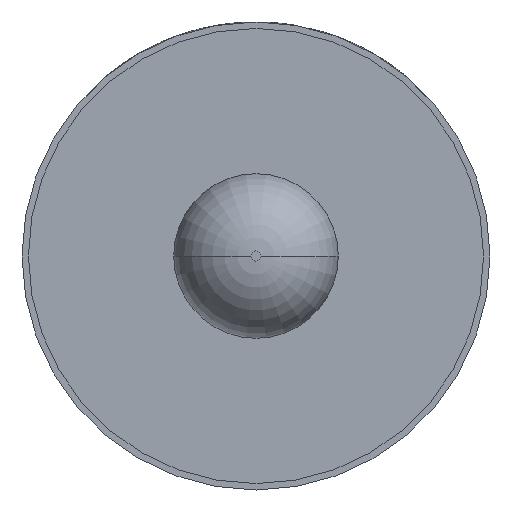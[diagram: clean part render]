
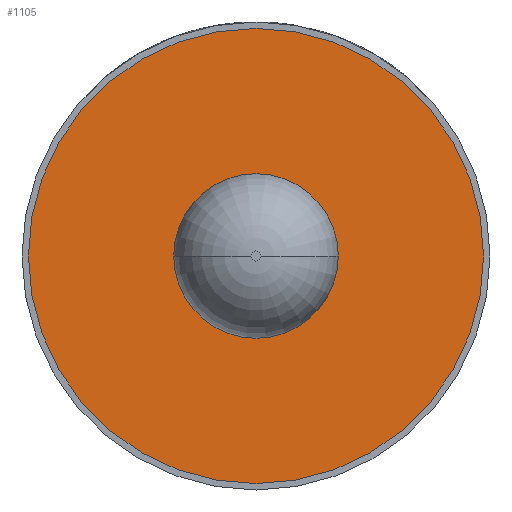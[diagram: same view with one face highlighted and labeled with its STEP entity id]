
A CAD part, left-side view. The second image highlights one B-rep face of the part: STEP entity #1105.
In plain terms, the highlighted planar face has unit normal (-1, 0, 0).
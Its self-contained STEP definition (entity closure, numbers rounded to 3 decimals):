
#137 = AXIS2_PLACEMENT_3D ( 'NONE', #2691, #3284, #444 ) ;
#213 = DIRECTION ( 'NONE',  ( 0., 0., -1. ) ) ;
#377 = AXIS2_PLACEMENT_3D ( 'NONE', #5184, #501, #2780 ) ;
#435 = VERTEX_POINT ( 'NONE', #3808 ) ;
#444 = DIRECTION ( 'NONE',  ( 0., 0., -1. ) ) ;
#501 = DIRECTION ( 'NONE',  ( 1., 0., 0. ) ) ;
#703 = ORIENTED_EDGE ( 'NONE', *, *, #2884, .T. ) ;
#771 = DIRECTION ( 'NONE',  ( 0., 0., -1. ) ) ;
#842 = AXIS2_PLACEMENT_3D ( 'NONE', #6443, #2985, #771 ) ;
#846 = VERTEX_POINT ( 'NONE', #4769 ) ;
#1058 = ORIENTED_EDGE ( 'NONE', *, *, #6444, .T. ) ;
#1105 = ADVANCED_FACE ( 'NONE', ( #5391, #1311 ), #7066, .F. ) ;
#1264 = VERTEX_POINT ( 'NONE', #3429 ) ;
#1311 = FACE_OUTER_BOUND ( 'NONE', #5989, .T. ) ;
#1372 = AXIS2_PLACEMENT_3D ( 'NONE', #6042, #5488, #4359 ) ;
#1480 = CARTESIAN_POINT ( 'NONE',  ( -98.7, 0., -3.2 ) ) ;
#1850 = VERTEX_POINT ( 'NONE', #1480 ) ;
#2691 = CARTESIAN_POINT ( 'NONE',  ( -98.7, 0., 0. ) ) ;
#2780 = DIRECTION ( 'NONE',  ( 0., 0., -1. ) ) ;
#2850 = EDGE_CURVE ( 'NONE', #846, #435, #5396, .T. ) ;
#2851 = ORIENTED_EDGE ( 'NONE', *, *, #4212, .F. ) ;
#2884 = EDGE_CURVE ( 'NONE', #1264, #1850, #7211, .T. ) ;
#2985 = DIRECTION ( 'NONE',  ( 1., 0., 0. ) ) ;
#3284 = DIRECTION ( 'NONE',  ( 1., 0., 0. ) ) ;
#3429 = CARTESIAN_POINT ( 'NONE',  ( -98.7, 0., 3.2 ) ) ;
#3472 = AXIS2_PLACEMENT_3D ( 'NONE', #5970, #5874, #213 ) ;
#3808 = CARTESIAN_POINT ( 'NONE',  ( -98.7, 0., -8.85 ) ) ;
#3866 = CIRCLE ( 'NONE', #1372, 3.2 ) ;
#4018 = ORIENTED_EDGE ( 'NONE', *, *, #2850, .F. ) ;
#4202 = CIRCLE ( 'NONE', #377, 8.85 ) ;
#4212 = EDGE_CURVE ( 'NONE', #435, #846, #4202, .T. ) ;
#4321 = EDGE_LOOP ( 'NONE', ( #1058, #703 ) ) ;
#4359 = DIRECTION ( 'NONE',  ( 0., 0., -1. ) ) ;
#4769 = CARTESIAN_POINT ( 'NONE',  ( -98.7, 0., 8.85 ) ) ;
#5184 = CARTESIAN_POINT ( 'NONE',  ( -98.7, 0., 0. ) ) ;
#5391 = FACE_BOUND ( 'NONE', #4321, .T. ) ;
#5396 = CIRCLE ( 'NONE', #842, 8.85 ) ;
#5488 = DIRECTION ( 'NONE',  ( 1., 0., 0. ) ) ;
#5874 = DIRECTION ( 'NONE',  ( 1., 0., 0. ) ) ;
#5970 = CARTESIAN_POINT ( 'NONE',  ( -98.7, 0., 0. ) ) ;
#5989 = EDGE_LOOP ( 'NONE', ( #2851, #4018 ) ) ;
#6042 = CARTESIAN_POINT ( 'NONE',  ( -98.7, 0., 0. ) ) ;
#6443 = CARTESIAN_POINT ( 'NONE',  ( -98.7, 0., 0. ) ) ;
#6444 = EDGE_CURVE ( 'NONE', #1850, #1264, #3866, .T. ) ;
#7066 = PLANE ( 'NONE',  #137 ) ;
#7211 = CIRCLE ( 'NONE', #3472, 3.2 ) ;
